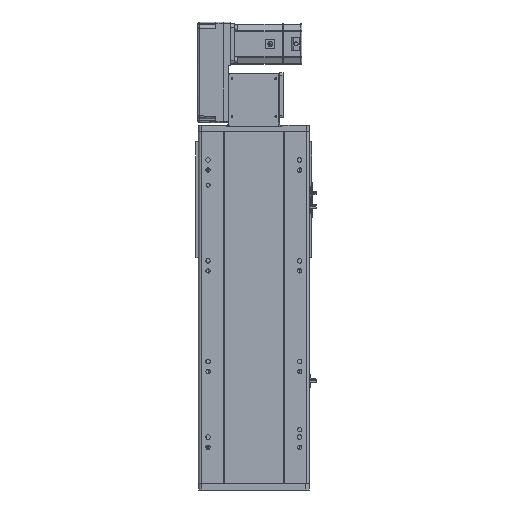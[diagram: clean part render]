
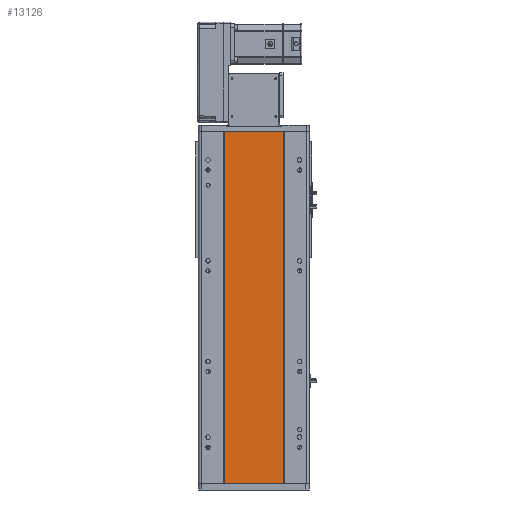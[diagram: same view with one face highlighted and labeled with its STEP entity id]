
A CAD part, front view. The second image highlights one B-rep face of the part: STEP entity #13126.
In plain terms, the highlighted planar face has unit normal (0, -1, 0).
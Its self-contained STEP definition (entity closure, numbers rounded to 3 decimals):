
#2510 = CARTESIAN_POINT ( 'NONE',  ( -59., 1., -349.5 ) ) ;
#4111 = CARTESIAN_POINT ( 'NONE',  ( -59., 1., 349.5 ) ) ;
#4443 = CARTESIAN_POINT ( 'NONE',  ( -59., 1., 349.5 ) ) ;
#6332 = EDGE_CURVE ( 'NONE', #30647, #10095, #36683, .T. ) ;
#7738 = EDGE_LOOP ( 'NONE', ( #32067, #27174, #9598, #33251 ) ) ;
#8227 = VECTOR ( 'NONE', #17269, 1000. ) ;
#8337 = DIRECTION ( 'NONE',  ( 0., 0., -1. ) ) ;
#9110 = VECTOR ( 'NONE', #29415, 1000. ) ;
#9598 = ORIENTED_EDGE ( 'NONE', *, *, #11547, .F. ) ;
#10095 = VERTEX_POINT ( 'NONE', #2510 ) ;
#11148 = VERTEX_POINT ( 'NONE', #21300 ) ;
#11443 = DIRECTION ( 'NONE',  ( 0., 0., -1. ) ) ;
#11547 = EDGE_CURVE ( 'NONE', #30647, #20899, #14022, .T. ) ;
#12841 = CARTESIAN_POINT ( 'NONE',  ( -59., 1., -349.5 ) ) ;
#13126 = ADVANCED_FACE ( 'NONE', ( #43307 ), #30749, .F. ) ;
#14022 = LINE ( 'NONE', #24964, #9110 ) ;
#15555 = DIRECTION ( 'NONE',  ( -1., 0., 0. ) ) ;
#17269 = DIRECTION ( 'NONE',  ( 1., 0., 0. ) ) ;
#18847 = LINE ( 'NONE', #39689, #28690 ) ;
#20899 = VERTEX_POINT ( 'NONE', #49875 ) ;
#21300 = CARTESIAN_POINT ( 'NONE',  ( 59., 1., -349.5 ) ) ;
#21368 = VECTOR ( 'NONE', #11443, 1000. ) ;
#24964 = CARTESIAN_POINT ( 'NONE',  ( -59., 1., 349.5 ) ) ;
#27004 = CARTESIAN_POINT ( 'NONE',  ( -59., 1., 349.5 ) ) ;
#27174 = ORIENTED_EDGE ( 'NONE', *, *, #45412, .F. ) ;
#27864 = LINE ( 'NONE', #12841, #8227 ) ;
#28690 = VECTOR ( 'NONE', #8337, 1000. ) ;
#29415 = DIRECTION ( 'NONE',  ( 1., 0., 0. ) ) ;
#30647 = VERTEX_POINT ( 'NONE', #4111 ) ;
#30749 = PLANE ( 'NONE',  #38356 ) ;
#31635 = DIRECTION ( 'NONE',  ( 0., 1., 0. ) ) ;
#32067 = ORIENTED_EDGE ( 'NONE', *, *, #48014, .T. ) ;
#33251 = ORIENTED_EDGE ( 'NONE', *, *, #6332, .T. ) ;
#36683 = LINE ( 'NONE', #4443, #21368 ) ;
#38356 = AXIS2_PLACEMENT_3D ( 'NONE', #27004, #31635, #15555 ) ;
#39689 = CARTESIAN_POINT ( 'NONE',  ( 59., 1., 349.5 ) ) ;
#43307 = FACE_OUTER_BOUND ( 'NONE', #7738, .T. ) ;
#45412 = EDGE_CURVE ( 'NONE', #20899, #11148, #18847, .T. ) ;
#48014 = EDGE_CURVE ( 'NONE', #10095, #11148, #27864, .T. ) ;
#49875 = CARTESIAN_POINT ( 'NONE',  ( 59., 1., 349.5 ) ) ;
